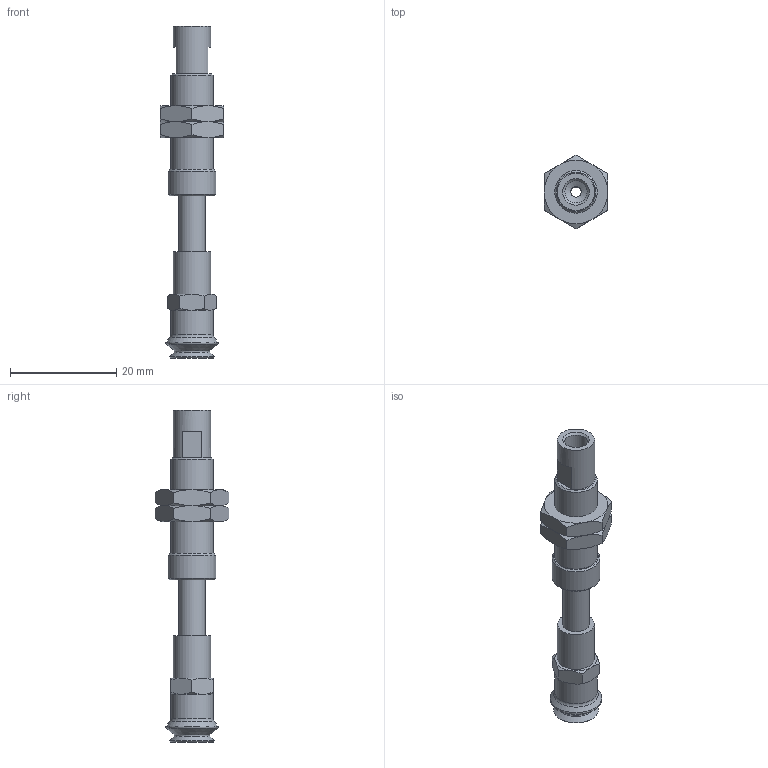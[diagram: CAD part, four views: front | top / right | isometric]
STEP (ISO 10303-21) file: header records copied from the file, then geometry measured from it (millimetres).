
FILE_DESCRIPTION(('STEP AP203'),'1');
FILE_NAME('-PE.stp','2025-04-25T02:21:43',(' '),(' '),'Spatial InterOp 3D',' ',' ');
FILE_SCHEMA(('CONFIG_CONTROL_DESIGN'));
Length unit declared in the file: millimetre
Products named in the file (7): BNABPJTS-8-10-※-PE; ZIG; BODY; NUT; PS-8-J-M- body; BPJG-8-_
Assembly tree (6 placements, depth 2):
  BNABPJTS-8-10-※-PE
    ZIG
    BODY
    NUT
    NUT
    PS-8-J-M- body
    BPJG-8-_
Bounding box: 12 x 13.86 x 62.5 mm (x, y, z)
Volume: 2676.1 mm3; surface area: 3979.2 mm2
Topology: 6 solids, 6 shells, 126 faces, 260 edges, 155 vertices
Faces by surface type: cone 54, plane 43, cylinder 21, torus 8
Full cylindrical faces by diameter (mm): 2 x2, 4 x4, 4.2 x2, 5 x3, 5.2 x1, 6 x2, 7 x2, 7.25 x2, 8 x2, 9 x1
Entity records: 3392 total; most frequent: CARTESIAN_POINT 687, DIRECTION 500, ORIENTED_EDGE 404, AXIS2_PLACEMENT_3D 237, EDGE_CURVE 202, EDGE_LOOP 194, FACE_OUTER_BOUND 155, VERTEX_POINT 144
